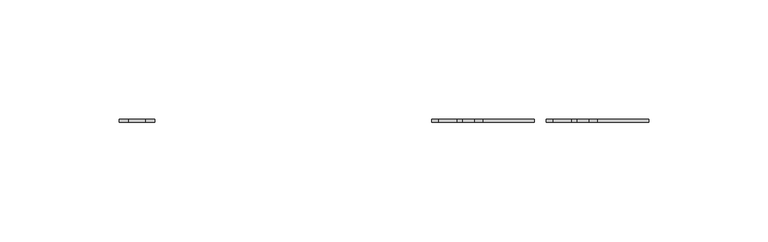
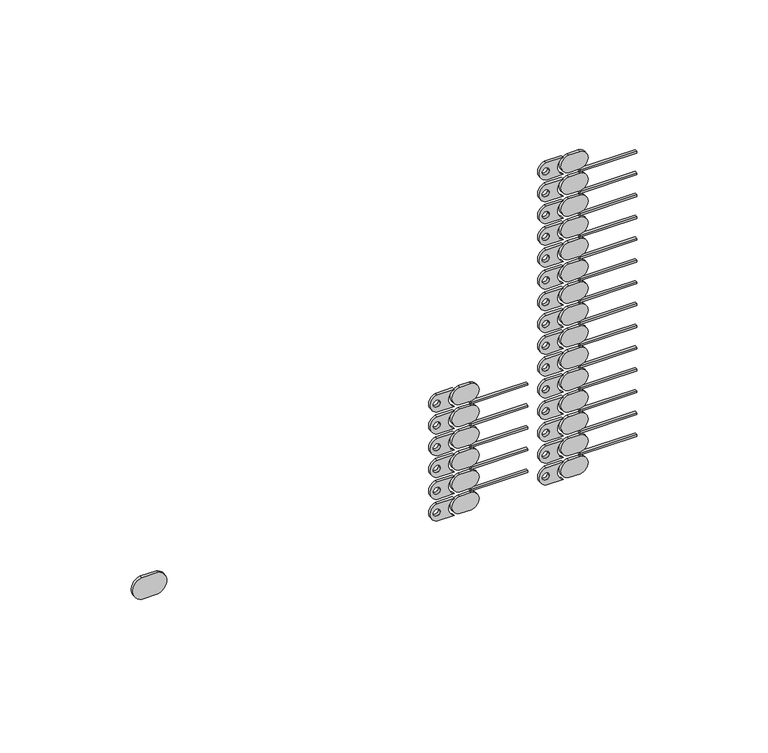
"""IFC4 building model written with IfcOpenShell, lengths in millimetres: alarm geometry, БИС-Р_тип модель : БИС-Р."""

from ifc_helpers import new_model, si_unit, point, frame, frame_2d, origin, place, context, project, spatial, polyline, circle_curve, trimmed, segment, composite_curve, outline, extrude, source, transform, mapped, element, save


def alarm_d060e439(model_context):
    return source(origin(), model_context, "Body", "SweptSolid", [
        extrude(outline(composite_curve([segment(polyline([(-139.9503936, -95.0017404), (-139.9503936, -102.0017404)]), True, "CONTINUOUS"), segment(trimmed(circle_curve(frame_2d((-144.9503936, -100.8767404)), 5.125), [point((-139.9503936, -102.0017404))], [point((-149.9503936, -102.0017404))], False, "CARTESIAN"), True, "CONTINUOUS"), segment(polyline([(-149.9503936, -102.0017404), (-149.9503936, -95.0017404)]), True, "CONTINUOUS"), segment(trimmed(circle_curve(frame_2d((-144.9503936, -96.1267404)), 5.125), [point((-149.9503936, -95.0017404))], [point((-139.9503936, -95.0017404))], False, "CARTESIAN"), True, "CONTINUOUS")], self_intersect=False)), frame((0.0, -14.3, 0.0), z_axis=(0.0, 1.0, 0.0), x_axis=(0.0, 0.0, 1.0)), (0.0, 0.0, 1.0), 1.3),
        extrude(outline(composite_curve([segment(polyline([(-159.1025772, 75.9909508), (-159.1025772, 83.4898609)]), True, "CONTINUOUS"), segment(trimmed(circle_curve(frame_2d((-155.1003936, 85.4417357)), 4.4527845), [point((-159.1025772, 83.4898609))], [point((-151.0982099, 83.4898609))], True, "CARTESIAN"), True, "CONTINUOUS"), segment(polyline([(-151.0982099, 83.4898609), (-151.0982099, 75.9909508)]), True, "CONTINUOUS"), segment(trimmed(circle_curve(frame_2d((-155.1003936, 77.1591799)), 4.1692006), [point((-151.0982099, 75.9909508))], [point((-159.1025772, 75.9909508))], False, "CARTESIAN"), True, "CONTINUOUS")], self_intersect=False), holes=[composite_curve([segment(trimmed(circle_curve(frame_2d((-155.1003936, 75.8836283)), 1.5), [point((-155.1003936, 74.3836283))], [point((-155.1003936, 77.3836283))], True, "CARTESIAN"), True, "CONTINUOUS"), segment(trimmed(circle_curve(frame_2d((-155.1003936, 75.8836283)), 1.5), [point((-155.1003936, 77.3836283))], [point((-155.1003936, 74.3836283))], True, "CARTESIAN"), True, "CONTINUOUS")], self_intersect=False)]), frame((0.0, -14.3, 0.0), z_axis=(0.0, 1.0, 0.0), x_axis=(0.0, 0.0, 1.0)), (0.0, 0.0, 1.0), 1.3),
        extrude(outline(composite_curve([segment(trimmed(circle_curve(frame_2d((-155.1003936, 90.4501658)), 4.0380565), [point((-159.1025772, 90.9872192))], [point((-151.0982099, 90.9872192))], False, "CARTESIAN"), True, "CONTINUOUS"), segment(polyline([(-151.0982099, 90.9872192), (-151.0982099, 85.9863247)]), True, "CONTINUOUS"), segment(trimmed(circle_curve(frame_2d((-155.1003936, 86.5376284)), 4.0399765), [point((-151.0982099, 85.9863247))], [point((-159.1025772, 85.9863247))], False, "CARTESIAN"), True, "CONTINUOUS"), segment(polyline([(-159.1025772, 85.9863247), (-159.1025772, 90.9872192)]), True, "CONTINUOUS")], self_intersect=False)), frame((0.0, -14.3, 0.0), z_axis=(0.0, 1.0, 0.0), x_axis=(0.0, 0.0, 1.0)), (0.0, 0.0, 1.0), 1.3),
        extrude(outline(composite_curve([segment(polyline([(-148.9525772, 75.9909508), (-148.9525772, 83.4898609)]), True, "CONTINUOUS"), segment(trimmed(circle_curve(frame_2d((-144.9503936, 85.4417357)), 4.4527845), [point((-148.9525772, 83.4898609))], [point((-140.9482099, 83.4898609))], True, "CARTESIAN"), True, "CONTINUOUS"), segment(polyline([(-140.9482099, 83.4898609), (-140.9482099, 75.9909508)]), True, "CONTINUOUS"), segment(trimmed(circle_curve(frame_2d((-144.9503936, 77.1591799)), 4.1692006), [point((-140.9482099, 75.9909508))], [point((-148.9525772, 75.9909508))], False, "CARTESIAN"), True, "CONTINUOUS")], self_intersect=False), holes=[composite_curve([segment(trimmed(circle_curve(frame_2d((-144.9503936, 75.8836283)), 1.5), [point((-144.9503936, 74.3836283))], [point((-144.9503936, 77.3836283))], True, "CARTESIAN"), True, "CONTINUOUS"), segment(trimmed(circle_curve(frame_2d((-144.9503936, 75.8836283)), 1.5), [point((-144.9503936, 77.3836283))], [point((-144.9503936, 74.3836283))], True, "CARTESIAN"), True, "CONTINUOUS")], self_intersect=False)]), frame((0.0, -14.3, 0.0), z_axis=(0.0, 1.0, 0.0), x_axis=(0.0, 0.0, 1.0)), (0.0, 0.0, 1.0), 1.3),
        extrude(outline(polyline([(115.9872192, -14.3), (90.9872192, -14.3), (90.9872192, -13.0), (115.9872192, -13.0), (115.9872192, -14.3)])), frame((0.0, 0.0, -150.4160186), z_axis=(0.0, 0.0, 1.0), x_axis=(1.0, 0.0, 0.0)), (0.0, 0.0, 1.0), 0.8214556),
        extrude(outline(composite_curve([segment(trimmed(circle_curve(frame_2d((-144.9503936, 90.4501658)), 4.0380565), [point((-148.9525772, 90.9872192))], [point((-140.9482099, 90.9872192))], False, "CARTESIAN"), True, "CONTINUOUS"), segment(polyline([(-140.9482099, 90.9872192), (-140.9482099, 85.9863247)]), True, "CONTINUOUS"), segment(trimmed(circle_curve(frame_2d((-144.9503936, 86.5376284)), 4.0399765), [point((-140.9482099, 85.9863247))], [point((-148.9525772, 85.9863247))], False, "CARTESIAN"), True, "CONTINUOUS"), segment(polyline([(-148.9525772, 85.9863247), (-148.9525772, 90.9872192)]), True, "CONTINUOUS")], self_intersect=False)), frame((0.0, -14.3, 0.0), z_axis=(0.0, 1.0, 0.0), x_axis=(0.0, 0.0, 1.0)), (0.0, 0.0, 1.0), 1.3),
        extrude(outline(composite_curve([segment(polyline([(-138.8025772, 75.9909508), (-138.8025772, 83.4898609)]), True, "CONTINUOUS"), segment(trimmed(circle_curve(frame_2d((-134.8003936, 85.4417357)), 4.4527845), [point((-138.8025772, 83.4898609))], [point((-130.7982099, 83.4898609))], True, "CARTESIAN"), True, "CONTINUOUS"), segment(polyline([(-130.7982099, 83.4898609), (-130.7982099, 75.9909508)]), True, "CONTINUOUS"), segment(trimmed(circle_curve(frame_2d((-134.8003936, 77.1591799)), 4.1692006), [point((-130.7982099, 75.9909508))], [point((-138.8025772, 75.9909508))], False, "CARTESIAN"), True, "CONTINUOUS")], self_intersect=False), holes=[composite_curve([segment(trimmed(circle_curve(frame_2d((-134.8003936, 75.8836283)), 1.5), [point((-134.8003936, 74.3836283))], [point((-134.8003936, 77.3836283))], True, "CARTESIAN"), True, "CONTINUOUS"), segment(trimmed(circle_curve(frame_2d((-134.8003936, 75.8836283)), 1.5), [point((-134.8003936, 77.3836283))], [point((-134.8003936, 74.3836283))], True, "CARTESIAN"), True, "CONTINUOUS")], self_intersect=False)]), frame((0.0, -14.3, 0.0), z_axis=(0.0, 1.0, 0.0), x_axis=(0.0, 0.0, 1.0)), (0.0, 0.0, 1.0), 1.3),
        extrude(outline(polyline([(115.9872192, -14.3), (90.9872192, -14.3), (90.9872192, -13.0), (115.9872192, -13.0), (115.9872192, -14.3)])), frame((0.0, 0.0, -140.2660186), z_axis=(0.0, 0.0, 1.0), x_axis=(1.0, 0.0, 0.0)), (0.0, 0.0, 1.0), 0.8214556),
        extrude(outline(composite_curve([segment(trimmed(circle_curve(frame_2d((-134.8003936, 90.4501658)), 4.0380565), [point((-138.8025772, 90.9872192))], [point((-130.7982099, 90.9872192))], False, "CARTESIAN"), True, "CONTINUOUS"), segment(polyline([(-130.7982099, 90.9872192), (-130.7982099, 85.9863247)]), True, "CONTINUOUS"), segment(trimmed(circle_curve(frame_2d((-134.8003936, 86.5376284)), 4.0399765), [point((-130.7982099, 85.9863247))], [point((-138.8025772, 85.9863247))], False, "CARTESIAN"), True, "CONTINUOUS"), segment(polyline([(-138.8025772, 85.9863247), (-138.8025772, 90.9872192)]), True, "CONTINUOUS")], self_intersect=False)), frame((0.0, -14.3, 0.0), z_axis=(0.0, 1.0, 0.0), x_axis=(0.0, 0.0, 1.0)), (0.0, 0.0, 1.0), 1.3),
        extrude(outline(composite_curve([segment(polyline([(-128.6525772, 75.9909508), (-128.6525772, 83.4898609)]), True, "CONTINUOUS"), segment(trimmed(circle_curve(frame_2d((-124.6503936, 85.4417357)), 4.4527845), [point((-128.6525772, 83.4898609))], [point((-120.6482099, 83.4898609))], True, "CARTESIAN"), True, "CONTINUOUS"), segment(polyline([(-120.6482099, 83.4898609), (-120.6482099, 75.9909508)]), True, "CONTINUOUS"), segment(trimmed(circle_curve(frame_2d((-124.6503936, 77.1591799)), 4.1692006), [point((-120.6482099, 75.9909508))], [point((-128.6525772, 75.9909508))], False, "CARTESIAN"), True, "CONTINUOUS")], self_intersect=False), holes=[composite_curve([segment(trimmed(circle_curve(frame_2d((-124.6503936, 75.8836283)), 1.5), [point((-124.6503936, 74.3836283))], [point((-124.6503936, 77.3836283))], True, "CARTESIAN"), True, "CONTINUOUS"), segment(trimmed(circle_curve(frame_2d((-124.6503936, 75.8836283)), 1.5), [point((-124.6503936, 77.3836283))], [point((-124.6503936, 74.3836283))], True, "CARTESIAN"), True, "CONTINUOUS")], self_intersect=False)]), frame((0.0, -14.3, 0.0), z_axis=(0.0, 1.0, 0.0), x_axis=(0.0, 0.0, 1.0)), (0.0, 0.0, 1.0), 1.3),
        extrude(outline(polyline([(115.9872192, -14.3), (90.9872192, -14.3), (90.9872192, -13.0), (115.9872192, -13.0), (115.9872192, -14.3)])), frame((0.0, 0.0, -130.1160186), z_axis=(0.0, 0.0, 1.0), x_axis=(1.0, 0.0, 0.0)), (0.0, 0.0, 1.0), 0.8214556),
        extrude(outline(composite_curve([segment(trimmed(circle_curve(frame_2d((-124.6503936, 90.4501658)), 4.0380565), [point((-128.6525772, 90.9872192))], [point((-120.6482099, 90.9872192))], False, "CARTESIAN"), True, "CONTINUOUS"), segment(polyline([(-120.6482099, 90.9872192), (-120.6482099, 85.9863247)]), True, "CONTINUOUS"), segment(trimmed(circle_curve(frame_2d((-124.6503936, 86.5376284)), 4.0399765), [point((-120.6482099, 85.9863247))], [point((-128.6525772, 85.9863247))], False, "CARTESIAN"), True, "CONTINUOUS"), segment(polyline([(-128.6525772, 85.9863247), (-128.6525772, 90.9872192)]), True, "CONTINUOUS")], self_intersect=False)), frame((0.0, -14.3, 0.0), z_axis=(0.0, 1.0, 0.0), x_axis=(0.0, 0.0, 1.0)), (0.0, 0.0, 1.0), 1.3),
        extrude(outline(composite_curve([segment(polyline([(-118.5025772, 75.9909508), (-118.5025772, 83.4898609)]), True, "CONTINUOUS"), segment(trimmed(circle_curve(frame_2d((-114.5003936, 85.4417357)), 4.4527845), [point((-118.5025772, 83.4898609))], [point((-110.4982099, 83.4898609))], True, "CARTESIAN"), True, "CONTINUOUS"), segment(polyline([(-110.4982099, 83.4898609), (-110.4982099, 75.9909508)]), True, "CONTINUOUS"), segment(trimmed(circle_curve(frame_2d((-114.5003936, 77.1591799)), 4.1692006), [point((-110.4982099, 75.9909508))], [point((-118.5025772, 75.9909508))], False, "CARTESIAN"), True, "CONTINUOUS")], self_intersect=False), holes=[composite_curve([segment(trimmed(circle_curve(frame_2d((-114.5003936, 75.8836283)), 1.5), [point((-114.5003936, 74.3836283))], [point((-114.5003936, 77.3836283))], True, "CARTESIAN"), True, "CONTINUOUS"), segment(trimmed(circle_curve(frame_2d((-114.5003936, 75.8836283)), 1.5), [point((-114.5003936, 77.3836283))], [point((-114.5003936, 74.3836283))], True, "CARTESIAN"), True, "CONTINUOUS")], self_intersect=False)]), frame((0.0, -14.3, 0.0), z_axis=(0.0, 1.0, 0.0), x_axis=(0.0, 0.0, 1.0)), (0.0, 0.0, 1.0), 1.3),
        extrude(outline(polyline([(115.9872192, -14.3), (90.9872192, -14.3), (90.9872192, -13.0), (115.9872192, -13.0), (115.9872192, -14.3)])), frame((0.0, 0.0, -119.9660186), z_axis=(0.0, 0.0, 1.0), x_axis=(1.0, 0.0, 0.0)), (0.0, 0.0, 1.0), 0.8214556),
        extrude(outline(composite_curve([segment(trimmed(circle_curve(frame_2d((-114.5003936, 90.4501658)), 4.0380565), [point((-118.5025772, 90.9872192))], [point((-110.4982099, 90.9872192))], False, "CARTESIAN"), True, "CONTINUOUS"), segment(polyline([(-110.4982099, 90.9872192), (-110.4982099, 85.9863247)]), True, "CONTINUOUS"), segment(trimmed(circle_curve(frame_2d((-114.5003936, 86.5376284)), 4.0399765), [point((-110.4982099, 85.9863247))], [point((-118.5025772, 85.9863247))], False, "CARTESIAN"), True, "CONTINUOUS"), segment(polyline([(-118.5025772, 85.9863247), (-118.5025772, 90.9872192)]), True, "CONTINUOUS")], self_intersect=False)), frame((0.0, -14.3, 0.0), z_axis=(0.0, 1.0, 0.0), x_axis=(0.0, 0.0, 1.0)), (0.0, 0.0, 1.0), 1.3),
        extrude(outline(composite_curve([segment(polyline([(-108.3525772, 75.9909508), (-108.3525772, 83.4898609)]), True, "CONTINUOUS"), segment(trimmed(circle_curve(frame_2d((-104.3503936, 85.4417357)), 4.4527845), [point((-108.3525772, 83.4898609))], [point((-100.3482099, 83.4898609))], True, "CARTESIAN"), True, "CONTINUOUS"), segment(polyline([(-100.3482099, 83.4898609), (-100.3482099, 75.9909508)]), True, "CONTINUOUS"), segment(trimmed(circle_curve(frame_2d((-104.3503936, 77.1591799)), 4.1692006), [point((-100.3482099, 75.9909508))], [point((-108.3525772, 75.9909508))], False, "CARTESIAN"), True, "CONTINUOUS")], self_intersect=False), holes=[composite_curve([segment(trimmed(circle_curve(frame_2d((-104.3503936, 75.8836283)), 1.5), [point((-104.3503936, 74.3836283))], [point((-104.3503936, 77.3836283))], True, "CARTESIAN"), True, "CONTINUOUS"), segment(trimmed(circle_curve(frame_2d((-104.3503936, 75.8836283)), 1.5), [point((-104.3503936, 77.3836283))], [point((-104.3503936, 74.3836283))], True, "CARTESIAN"), True, "CONTINUOUS")], self_intersect=False)]), frame((0.0, -14.3, 0.0), z_axis=(0.0, 1.0, 0.0), x_axis=(0.0, 0.0, 1.0)), (0.0, 0.0, 1.0), 1.3),
        extrude(outline(polyline([(115.9872192, -14.3), (90.9872192, -14.3), (90.9872192, -13.0), (115.9872192, -13.0), (115.9872192, -14.3)])), frame((0.0, 0.0, -109.8160186), z_axis=(0.0, 0.0, 1.0), x_axis=(1.0, 0.0, 0.0)), (0.0, 0.0, 1.0), 0.8214556),
        extrude(outline(composite_curve([segment(trimmed(circle_curve(frame_2d((-104.3503936, 90.4501658)), 4.0380565), [point((-108.3525772, 90.9872192))], [point((-100.3482099, 90.9872192))], False, "CARTESIAN"), True, "CONTINUOUS"), segment(polyline([(-100.3482099, 90.9872192), (-100.3482099, 85.9863247)]), True, "CONTINUOUS"), segment(trimmed(circle_curve(frame_2d((-104.3503936, 86.5376284)), 4.0399765), [point((-100.3482099, 85.9863247))], [point((-108.3525772, 85.9863247))], False, "CARTESIAN"), True, "CONTINUOUS"), segment(polyline([(-108.3525772, 85.9863247), (-108.3525772, 90.9872192)]), True, "CONTINUOUS")], self_intersect=False)), frame((0.0, -14.3, 0.0), z_axis=(0.0, 1.0, 0.0), x_axis=(0.0, 0.0, 1.0)), (0.0, 0.0, 1.0), 1.3),
        extrude(outline(composite_curve([segment(polyline([(-98.2025772, 75.9909508), (-98.2025772, 83.4898609)]), True, "CONTINUOUS"), segment(trimmed(circle_curve(frame_2d((-94.2003936, 85.4417357)), 4.4527845), [point((-98.2025772, 83.4898609))], [point((-90.1982099, 83.4898609))], True, "CARTESIAN"), True, "CONTINUOUS"), segment(polyline([(-90.1982099, 83.4898609), (-90.1982099, 75.9909508)]), True, "CONTINUOUS"), segment(trimmed(circle_curve(frame_2d((-94.2003936, 77.1591799)), 4.1692006), [point((-90.1982099, 75.9909508))], [point((-98.2025772, 75.9909508))], False, "CARTESIAN"), True, "CONTINUOUS")], self_intersect=False), holes=[composite_curve([segment(trimmed(circle_curve(frame_2d((-94.2003936, 75.8836283)), 1.5), [point((-94.2003936, 74.3836283))], [point((-94.2003936, 77.3836283))], True, "CARTESIAN"), True, "CONTINUOUS"), segment(trimmed(circle_curve(frame_2d((-94.2003936, 75.8836283)), 1.5), [point((-94.2003936, 77.3836283))], [point((-94.2003936, 74.3836283))], True, "CARTESIAN"), True, "CONTINUOUS")], self_intersect=False)]), frame((0.0, -14.3, 0.0), z_axis=(0.0, 1.0, 0.0), x_axis=(0.0, 0.0, 1.0)), (0.0, 0.0, 1.0), 1.3),
        extrude(outline(polyline([(115.9872192, -14.3), (90.9872192, -14.3), (90.9872192, -13.0), (115.9872192, -13.0), (115.9872192, -14.3)])), frame((0.0, 0.0, -99.6660186), z_axis=(0.0, 0.0, 1.0), x_axis=(1.0, 0.0, 0.0)), (0.0, 0.0, 1.0), 0.8214556),
        extrude(outline(composite_curve([segment(trimmed(circle_curve(frame_2d((-94.2003936, 90.4501658)), 4.0380565), [point((-98.2025772, 90.9872192))], [point((-90.1982099, 90.9872192))], False, "CARTESIAN"), True, "CONTINUOUS"), segment(polyline([(-90.1982099, 90.9872192), (-90.1982099, 85.9863247)]), True, "CONTINUOUS"), segment(trimmed(circle_curve(frame_2d((-94.2003936, 86.5376284)), 4.0399765), [point((-90.1982099, 85.9863247))], [point((-98.2025772, 85.9863247))], False, "CARTESIAN"), True, "CONTINUOUS"), segment(polyline([(-98.2025772, 85.9863247), (-98.2025772, 90.9872192)]), True, "CONTINUOUS")], self_intersect=False)), frame((0.0, -14.3, 0.0), z_axis=(0.0, 1.0, 0.0), x_axis=(0.0, 0.0, 1.0)), (0.0, 0.0, 1.0), 1.3),
        extrude(outline(composite_curve([segment(polyline([(-88.0525772, 75.9909508), (-88.0525772, 83.4898609)]), True, "CONTINUOUS"), segment(trimmed(circle_curve(frame_2d((-84.0503936, 85.4417357)), 4.4527845), [point((-88.0525772, 83.4898609))], [point((-80.0482099, 83.4898609))], True, "CARTESIAN"), True, "CONTINUOUS"), segment(polyline([(-80.0482099, 83.4898609), (-80.0482099, 75.9909508)]), True, "CONTINUOUS"), segment(trimmed(circle_curve(frame_2d((-84.0503936, 77.1591799)), 4.1692006), [point((-80.0482099, 75.9909508))], [point((-88.0525772, 75.9909508))], False, "CARTESIAN"), True, "CONTINUOUS")], self_intersect=False), holes=[composite_curve([segment(trimmed(circle_curve(frame_2d((-84.0503936, 75.8836283)), 1.5), [point((-84.0503936, 74.3836283))], [point((-84.0503936, 77.3836283))], True, "CARTESIAN"), True, "CONTINUOUS"), segment(trimmed(circle_curve(frame_2d((-84.0503936, 75.8836283)), 1.5), [point((-84.0503936, 77.3836283))], [point((-84.0503936, 74.3836283))], True, "CARTESIAN"), True, "CONTINUOUS")], self_intersect=False)]), frame((0.0, -14.3, 0.0), z_axis=(0.0, 1.0, 0.0), x_axis=(0.0, 0.0, 1.0)), (0.0, 0.0, 1.0), 1.3),
        extrude(outline(polyline([(115.9872192, -14.3), (90.9872192, -14.3), (90.9872192, -13.0), (115.9872192, -13.0), (115.9872192, -14.3)])), frame((0.0, 0.0, -89.5160186), z_axis=(0.0, 0.0, 1.0), x_axis=(1.0, 0.0, 0.0)), (0.0, 0.0, 1.0), 0.8214556),
        extrude(outline(composite_curve([segment(trimmed(circle_curve(frame_2d((-84.0503936, 90.4501658)), 4.0380565), [point((-88.0525772, 90.9872192))], [point((-80.0482099, 90.9872192))], False, "CARTESIAN"), True, "CONTINUOUS"), segment(polyline([(-80.0482099, 90.9872192), (-80.0482099, 85.9863247)]), True, "CONTINUOUS"), segment(trimmed(circle_curve(frame_2d((-84.0503936, 86.5376284)), 4.0399765), [point((-80.0482099, 85.9863247))], [point((-88.0525772, 85.9863247))], False, "CARTESIAN"), True, "CONTINUOUS"), segment(polyline([(-88.0525772, 85.9863247), (-88.0525772, 90.9872192)]), True, "CONTINUOUS")], self_intersect=False)), frame((0.0, -14.3, 0.0), z_axis=(0.0, 1.0, 0.0), x_axis=(0.0, 0.0, 1.0)), (0.0, 0.0, 1.0), 1.3),
        extrude(outline(composite_curve([segment(polyline([(-77.9025772, 75.9909508), (-77.9025772, 83.4898609)]), True, "CONTINUOUS"), segment(trimmed(circle_curve(frame_2d((-73.9003936, 85.4417357)), 4.4527845), [point((-77.9025772, 83.4898609))], [point((-69.8982099, 83.4898609))], True, "CARTESIAN"), True, "CONTINUOUS"), segment(polyline([(-69.8982099, 83.4898609), (-69.8982099, 75.9909508)]), True, "CONTINUOUS"), segment(trimmed(circle_curve(frame_2d((-73.9003936, 77.1591799)), 4.1692006), [point((-69.8982099, 75.9909508))], [point((-77.9025772, 75.9909508))], False, "CARTESIAN"), True, "CONTINUOUS")], self_intersect=False), holes=[composite_curve([segment(trimmed(circle_curve(frame_2d((-73.9003936, 75.8836283)), 1.5), [point((-73.9003936, 74.3836283))], [point((-73.9003936, 77.3836283))], True, "CARTESIAN"), True, "CONTINUOUS"), segment(trimmed(circle_curve(frame_2d((-73.9003936, 75.8836283)), 1.5), [point((-73.9003936, 77.3836283))], [point((-73.9003936, 74.3836283))], True, "CARTESIAN"), True, "CONTINUOUS")], self_intersect=False)]), frame((0.0, -14.3, 0.0), z_axis=(0.0, 1.0, 0.0), x_axis=(0.0, 0.0, 1.0)), (0.0, 0.0, 1.0), 1.3),
        extrude(outline(polyline([(115.9872192, -14.3), (90.9872192, -14.3), (90.9872192, -13.0), (115.9872192, -13.0), (115.9872192, -14.3)])), frame((0.0, 0.0, -79.3660186), z_axis=(0.0, 0.0, 1.0), x_axis=(1.0, 0.0, 0.0)), (0.0, 0.0, 1.0), 0.8214556),
        extrude(outline(composite_curve([segment(trimmed(circle_curve(frame_2d((-73.9003936, 90.4501658)), 4.0380565), [point((-77.9025772, 90.9872192))], [point((-69.8982099, 90.9872192))], False, "CARTESIAN"), True, "CONTINUOUS"), segment(polyline([(-69.8982099, 90.9872192), (-69.8982099, 85.9863247)]), True, "CONTINUOUS"), segment(trimmed(circle_curve(frame_2d((-73.9003936, 86.5376284)), 4.0399765), [point((-69.8982099, 85.9863247))], [point((-77.9025772, 85.9863247))], False, "CARTESIAN"), True, "CONTINUOUS"), segment(polyline([(-77.9025772, 85.9863247), (-77.9025772, 90.9872192)]), True, "CONTINUOUS")], self_intersect=False)), frame((0.0, -14.3, 0.0), z_axis=(0.0, 1.0, 0.0), x_axis=(0.0, 0.0, 1.0)), (0.0, 0.0, 1.0), 1.3),
        extrude(outline(composite_curve([segment(polyline([(-67.7525772, 75.9909508), (-67.7525772, 83.4898609)]), True, "CONTINUOUS"), segment(trimmed(circle_curve(frame_2d((-63.7503936, 85.4417357)), 4.4527845), [point((-67.7525772, 83.4898609))], [point((-59.7482099, 83.4898609))], True, "CARTESIAN"), True, "CONTINUOUS"), segment(polyline([(-59.7482099, 83.4898609), (-59.7482099, 75.9909508)]), True, "CONTINUOUS"), segment(trimmed(circle_curve(frame_2d((-63.7503936, 77.1591799)), 4.1692006), [point((-59.7482099, 75.9909508))], [point((-67.7525772, 75.9909508))], False, "CARTESIAN"), True, "CONTINUOUS")], self_intersect=False), holes=[composite_curve([segment(trimmed(circle_curve(frame_2d((-63.7503936, 75.8836283)), 1.5), [point((-63.7503936, 74.3836283))], [point((-63.7503936, 77.3836283))], True, "CARTESIAN"), True, "CONTINUOUS"), segment(trimmed(circle_curve(frame_2d((-63.7503936, 75.8836283)), 1.5), [point((-63.7503936, 77.3836283))], [point((-63.7503936, 74.3836283))], True, "CARTESIAN"), True, "CONTINUOUS")], self_intersect=False)]), frame((0.0, -14.3, 0.0), z_axis=(0.0, 1.0, 0.0), x_axis=(0.0, 0.0, 1.0)), (0.0, 0.0, 1.0), 1.3),
        extrude(outline(polyline([(115.9872192, -14.3), (90.9872192, -14.3), (90.9872192, -13.0), (115.9872192, -13.0), (115.9872192, -14.3)])), frame((0.0, 0.0, -69.2160186), z_axis=(0.0, 0.0, 1.0), x_axis=(1.0, 0.0, 0.0)), (0.0, 0.0, 1.0), 0.8214556),
        extrude(outline(composite_curve([segment(trimmed(circle_curve(frame_2d((-63.7503936, 90.4501658)), 4.0380565), [point((-67.7525772, 90.9872192))], [point((-59.7482099, 90.9872192))], False, "CARTESIAN"), True, "CONTINUOUS"), segment(polyline([(-59.7482099, 90.9872192), (-59.7482099, 85.9863247)]), True, "CONTINUOUS"), segment(trimmed(circle_curve(frame_2d((-63.7503936, 86.5376284)), 4.0399765), [point((-59.7482099, 85.9863247))], [point((-67.7525772, 85.9863247))], False, "CARTESIAN"), True, "CONTINUOUS"), segment(polyline([(-67.7525772, 85.9863247), (-67.7525772, 90.9872192)]), True, "CONTINUOUS")], self_intersect=False)), frame((0.0, -14.3, 0.0), z_axis=(0.0, 1.0, 0.0), x_axis=(0.0, 0.0, 1.0)), (0.0, 0.0, 1.0), 1.3),
        extrude(outline(composite_curve([segment(polyline([(-57.6025772, 75.9909508), (-57.6025772, 83.4898609)]), True, "CONTINUOUS"), segment(trimmed(circle_curve(frame_2d((-53.6003936, 85.4417357)), 4.4527845), [point((-57.6025772, 83.4898609))], [point((-49.5982099, 83.4898609))], True, "CARTESIAN"), True, "CONTINUOUS"), segment(polyline([(-49.5982099, 83.4898609), (-49.5982099, 75.9909508)]), True, "CONTINUOUS"), segment(trimmed(circle_curve(frame_2d((-53.6003936, 77.1591799)), 4.1692006), [point((-49.5982099, 75.9909508))], [point((-57.6025772, 75.9909508))], False, "CARTESIAN"), True, "CONTINUOUS")], self_intersect=False), holes=[composite_curve([segment(trimmed(circle_curve(frame_2d((-53.6003936, 75.8836283)), 1.5), [point((-53.6003936, 74.3836283))], [point((-53.6003936, 77.3836283))], True, "CARTESIAN"), True, "CONTINUOUS"), segment(trimmed(circle_curve(frame_2d((-53.6003936, 75.8836283)), 1.5), [point((-53.6003936, 77.3836283))], [point((-53.6003936, 74.3836283))], True, "CARTESIAN"), True, "CONTINUOUS")], self_intersect=False)]), frame((0.0, -14.3, 0.0), z_axis=(0.0, 1.0, 0.0), x_axis=(0.0, 0.0, 1.0)), (0.0, 0.0, 1.0), 1.3),
        extrude(outline(polyline([(115.9872192, -14.3), (90.9872192, -14.3), (90.9872192, -13.0), (115.9872192, -13.0), (115.9872192, -14.3)])), frame((0.0, 0.0, -59.0660186), z_axis=(0.0, 0.0, 1.0), x_axis=(1.0, 0.0, 0.0)), (0.0, 0.0, 1.0), 0.8214556),
        extrude(outline(composite_curve([segment(trimmed(circle_curve(frame_2d((-53.6003936, 90.4501658)), 4.0380565), [point((-57.6025772, 90.9872192))], [point((-49.5982099, 90.9872192))], False, "CARTESIAN"), True, "CONTINUOUS"), segment(polyline([(-49.5982099, 90.9872192), (-49.5982099, 85.9863247)]), True, "CONTINUOUS"), segment(trimmed(circle_curve(frame_2d((-53.6003936, 86.5376284)), 4.0399765), [point((-49.5982099, 85.9863247))], [point((-57.6025772, 85.9863247))], False, "CARTESIAN"), True, "CONTINUOUS"), segment(polyline([(-57.6025772, 85.9863247), (-57.6025772, 90.9872192)]), True, "CONTINUOUS")], self_intersect=False)), frame((0.0, -14.3, 0.0), z_axis=(0.0, 1.0, 0.0), x_axis=(0.0, 0.0, 1.0)), (0.0, 0.0, 1.0), 1.3),
        extrude(outline(composite_curve([segment(polyline([(-47.4525772, 75.9909508), (-47.4525772, 83.4898609)]), True, "CONTINUOUS"), segment(trimmed(circle_curve(frame_2d((-43.4503936, 85.4417357)), 4.4527845), [point((-47.4525772, 83.4898609))], [point((-39.4482099, 83.4898609))], True, "CARTESIAN"), True, "CONTINUOUS"), segment(polyline([(-39.4482099, 83.4898609), (-39.4482099, 75.9909508)]), True, "CONTINUOUS"), segment(trimmed(circle_curve(frame_2d((-43.4503936, 77.1591799)), 4.1692006), [point((-39.4482099, 75.9909508))], [point((-47.4525772, 75.9909508))], False, "CARTESIAN"), True, "CONTINUOUS")], self_intersect=False), holes=[composite_curve([segment(trimmed(circle_curve(frame_2d((-43.4503936, 75.8836283)), 1.5), [point((-43.4503936, 74.3836283))], [point((-43.4503936, 77.3836283))], True, "CARTESIAN"), True, "CONTINUOUS"), segment(trimmed(circle_curve(frame_2d((-43.4503936, 75.8836283)), 1.5), [point((-43.4503936, 77.3836283))], [point((-43.4503936, 74.3836283))], True, "CARTESIAN"), True, "CONTINUOUS")], self_intersect=False)]), frame((0.0, -14.3, 0.0), z_axis=(0.0, 1.0, 0.0), x_axis=(0.0, 0.0, 1.0)), (0.0, 0.0, 1.0), 1.3),
        extrude(outline(polyline([(115.9872192, -14.3), (90.9872192, -14.3), (90.9872192, -13.0), (115.9872192, -13.0), (115.9872192, -14.3)])), frame((0.0, 0.0, -48.9160186), z_axis=(0.0, 0.0, 1.0), x_axis=(1.0, 0.0, 0.0)), (0.0, 0.0, 1.0), 0.8214556),
        extrude(outline(composite_curve([segment(trimmed(circle_curve(frame_2d((-43.4503936, 90.4501658)), 4.0380565), [point((-47.4525772, 90.9872192))], [point((-39.4482099, 90.9872192))], False, "CARTESIAN"), True, "CONTINUOUS"), segment(polyline([(-39.4482099, 90.9872192), (-39.4482099, 85.9863247)]), True, "CONTINUOUS"), segment(trimmed(circle_curve(frame_2d((-43.4503936, 86.5376284)), 4.0399765), [point((-39.4482099, 85.9863247))], [point((-47.4525772, 85.9863247))], False, "CARTESIAN"), True, "CONTINUOUS"), segment(polyline([(-47.4525772, 85.9863247), (-47.4525772, 90.9872192)]), True, "CONTINUOUS")], self_intersect=False)), frame((0.0, -14.3, 0.0), z_axis=(0.0, 1.0, 0.0), x_axis=(0.0, 0.0, 1.0)), (0.0, 0.0, 1.0), 1.3),
        extrude(outline(composite_curve([segment(polyline([(-37.3025772, 75.9909508), (-37.3025772, 83.4898609)]), True, "CONTINUOUS"), segment(trimmed(circle_curve(frame_2d((-33.3003936, 85.4417357)), 4.4527845), [point((-37.3025772, 83.4898609))], [point((-29.2982099, 83.4898609))], True, "CARTESIAN"), True, "CONTINUOUS"), segment(polyline([(-29.2982099, 83.4898609), (-29.2982099, 75.9909508)]), True, "CONTINUOUS"), segment(trimmed(circle_curve(frame_2d((-33.3003936, 77.1591799)), 4.1692006), [point((-29.2982099, 75.9909508))], [point((-37.3025772, 75.9909508))], False, "CARTESIAN"), True, "CONTINUOUS")], self_intersect=False), holes=[composite_curve([segment(trimmed(circle_curve(frame_2d((-33.3003936, 75.8836283)), 1.5), [point((-33.3003936, 74.3836283))], [point((-33.3003936, 77.3836283))], True, "CARTESIAN"), True, "CONTINUOUS"), segment(trimmed(circle_curve(frame_2d((-33.3003936, 75.8836283)), 1.5), [point((-33.3003936, 77.3836283))], [point((-33.3003936, 74.3836283))], True, "CARTESIAN"), True, "CONTINUOUS")], self_intersect=False)]), frame((0.0, -14.3, 0.0), z_axis=(0.0, 1.0, 0.0), x_axis=(0.0, 0.0, 1.0)), (0.0, 0.0, 1.0), 1.3),
        extrude(outline(polyline([(115.9872192, -14.3), (90.9872192, -14.3), (90.9872192, -13.0), (115.9872192, -13.0), (115.9872192, -14.3)])), frame((0.0, 0.0, -38.7660186), z_axis=(0.0, 0.0, 1.0), x_axis=(1.0, 0.0, 0.0)), (0.0, 0.0, 1.0), 0.8214556),
        extrude(outline(composite_curve([segment(trimmed(circle_curve(frame_2d((-33.3003936, 90.4501658)), 4.0380565), [point((-37.3025772, 90.9872192))], [point((-29.2982099, 90.9872192))], False, "CARTESIAN"), True, "CONTINUOUS"), segment(polyline([(-29.2982099, 90.9872192), (-29.2982099, 85.9863247)]), True, "CONTINUOUS"), segment(trimmed(circle_curve(frame_2d((-33.3003936, 86.5376284)), 4.0399765), [point((-29.2982099, 85.9863247))], [point((-37.3025772, 85.9863247))], False, "CARTESIAN"), True, "CONTINUOUS"), segment(polyline([(-37.3025772, 85.9863247), (-37.3025772, 90.9872192)]), True, "CONTINUOUS")], self_intersect=False)), frame((0.0, -14.3, 0.0), z_axis=(0.0, 1.0, 0.0), x_axis=(0.0, 0.0, 1.0)), (0.0, 0.0, 1.0), 1.3),
        extrude(outline(composite_curve([segment(polyline([(-27.1525772, 75.9909508), (-27.1525772, 83.4898609)]), True, "CONTINUOUS"), segment(trimmed(circle_curve(frame_2d((-23.1503936, 85.4417357)), 4.4527845), [point((-27.1525772, 83.4898609))], [point((-19.1482099, 83.4898609))], True, "CARTESIAN"), True, "CONTINUOUS"), segment(polyline([(-19.1482099, 83.4898609), (-19.1482099, 75.9909508)]), True, "CONTINUOUS"), segment(trimmed(circle_curve(frame_2d((-23.1503936, 77.1591799)), 4.1692006), [point((-19.1482099, 75.9909508))], [point((-27.1525772, 75.9909508))], False, "CARTESIAN"), True, "CONTINUOUS")], self_intersect=False), holes=[composite_curve([segment(trimmed(circle_curve(frame_2d((-23.1503936, 75.8836283)), 1.5), [point((-23.1503936, 74.3836283))], [point((-23.1503936, 77.3836283))], True, "CARTESIAN"), True, "CONTINUOUS"), segment(trimmed(circle_curve(frame_2d((-23.1503936, 75.8836283)), 1.5), [point((-23.1503936, 77.3836283))], [point((-23.1503936, 74.3836283))], True, "CARTESIAN"), True, "CONTINUOUS")], self_intersect=False)]), frame((0.0, -14.3, 0.0), z_axis=(0.0, 1.0, 0.0), x_axis=(0.0, 0.0, 1.0)), (0.0, 0.0, 1.0), 1.3),
        extrude(outline(polyline([(115.9872192, -14.3), (90.9872192, -14.3), (90.9872192, -13.0), (115.9872192, -13.0), (115.9872192, -14.3)])), frame((0.0, 0.0, -28.6160186), z_axis=(0.0, 0.0, 1.0), x_axis=(1.0, 0.0, 0.0)), (0.0, 0.0, 1.0), 0.8214556),
        extrude(outline(composite_curve([segment(trimmed(circle_curve(frame_2d((-23.1503936, 90.4501658)), 4.0380565), [point((-27.1525772, 90.9872192))], [point((-19.1482099, 90.9872192))], False, "CARTESIAN"), True, "CONTINUOUS"), segment(polyline([(-19.1482099, 90.9872192), (-19.1482099, 85.9863247)]), True, "CONTINUOUS"), segment(trimmed(circle_curve(frame_2d((-23.1503936, 86.5376284)), 4.0399765), [point((-19.1482099, 85.9863247))], [point((-27.1525772, 85.9863247))], False, "CARTESIAN"), True, "CONTINUOUS"), segment(polyline([(-27.1525772, 85.9863247), (-27.1525772, 90.9872192)]), True, "CONTINUOUS")], self_intersect=False)), frame((0.0, -14.3, 0.0), z_axis=(0.0, 1.0, 0.0), x_axis=(0.0, 0.0, 1.0)), (0.0, 0.0, 1.0), 1.3),
        extrude(outline(composite_curve([segment(polyline([(-17.0025772, 75.9909508), (-17.0025772, 83.4898609)]), True, "CONTINUOUS"), segment(trimmed(circle_curve(frame_2d((-13.0003936, 85.4417357)), 4.4527845), [point((-17.0025772, 83.4898609))], [point((-8.9982099, 83.4898609))], True, "CARTESIAN"), True, "CONTINUOUS"), segment(polyline([(-8.9982099, 83.4898609), (-8.9982099, 75.9909508)]), True, "CONTINUOUS"), segment(trimmed(circle_curve(frame_2d((-13.0003936, 77.1591799)), 4.1692006), [point((-8.9982099, 75.9909508))], [point((-17.0025772, 75.9909508))], False, "CARTESIAN"), True, "CONTINUOUS")], self_intersect=False), holes=[composite_curve([segment(trimmed(circle_curve(frame_2d((-13.0003936, 75.8836283)), 1.5), [point((-13.0003936, 74.3836283))], [point((-13.0003936, 77.3836283))], True, "CARTESIAN"), True, "CONTINUOUS"), segment(trimmed(circle_curve(frame_2d((-13.0003936, 75.8836283)), 1.5), [point((-13.0003936, 77.3836283))], [point((-13.0003936, 74.3836283))], True, "CARTESIAN"), True, "CONTINUOUS")], self_intersect=False)]), frame((0.0, -14.3, 0.0), z_axis=(0.0, 1.0, 0.0), x_axis=(0.0, 0.0, 1.0)), (0.0, 0.0, 1.0), 1.3),
        extrude(outline(polyline([(115.9872192, -14.3), (90.9872192, -14.3), (90.9872192, -13.0), (115.9872192, -13.0), (115.9872192, -14.3)])), frame((0.0, 0.0, -18.4660186), z_axis=(0.0, 0.0, 1.0), x_axis=(1.0, 0.0, 0.0)), (0.0, 0.0, 1.0), 0.8214556),
        extrude(outline(composite_curve([segment(trimmed(circle_curve(frame_2d((-13.0003936, 90.4501658)), 4.0380565), [point((-17.0025772, 90.9872192))], [point((-8.9982099, 90.9872192))], False, "CARTESIAN"), True, "CONTINUOUS"), segment(polyline([(-8.9982099, 90.9872192), (-8.9982099, 85.9863247)]), True, "CONTINUOUS"), segment(trimmed(circle_curve(frame_2d((-13.0003936, 86.5376284)), 4.0399765), [point((-8.9982099, 85.9863247))], [point((-17.0025772, 85.9863247))], False, "CARTESIAN"), True, "CONTINUOUS"), segment(polyline([(-17.0025772, 85.9863247), (-17.0025772, 90.9872192)]), True, "CONTINUOUS")], self_intersect=False)), frame((0.0, -14.3, 0.0), z_axis=(0.0, 1.0, 0.0), x_axis=(0.0, 0.0, 1.0)), (0.0, 0.0, 1.0), 1.3),
        extrude(outline(composite_curve([segment(polyline([(-159.1025772, 27.9937109), (-159.1025772, 35.492621)]), True, "CONTINUOUS"), segment(trimmed(circle_curve(frame_2d((-155.1003936, 37.4444958)), 4.4527845), [point((-159.1025772, 35.492621))], [point((-151.0982099, 35.492621))], True, "CARTESIAN"), True, "CONTINUOUS"), segment(polyline([(-151.0982099, 35.492621), (-151.0982099, 27.9937109)]), True, "CONTINUOUS"), segment(trimmed(circle_curve(frame_2d((-155.1003936, 29.16194)), 4.1692006), [point((-151.0982099, 27.9937109))], [point((-159.1025772, 27.9937109))], False, "CARTESIAN"), True, "CONTINUOUS")], self_intersect=False), holes=[composite_curve([segment(trimmed(circle_curve(frame_2d((-155.1003936, 27.8863884)), 1.5), [point((-155.1003936, 26.3863884))], [point((-155.1003936, 29.3863884))], True, "CARTESIAN"), True, "CONTINUOUS"), segment(trimmed(circle_curve(frame_2d((-155.1003936, 27.8863884)), 1.5), [point((-155.1003936, 29.3863884))], [point((-155.1003936, 26.3863884))], True, "CARTESIAN"), True, "CONTINUOUS")], self_intersect=False)]), frame((0.0, -14.3, 0.0), z_axis=(0.0, 1.0, 0.0), x_axis=(0.0, 0.0, 1.0)), (0.0, 0.0, 1.0), 1.3),
        extrude(outline(composite_curve([segment(trimmed(circle_curve(frame_2d((-155.1003936, 42.4529259)), 4.0380565), [point((-159.1025772, 42.9899793))], [point((-151.0982099, 42.9899793))], False, "CARTESIAN"), True, "CONTINUOUS"), segment(polyline([(-151.0982099, 42.9899793), (-151.0982099, 37.9890848)]), True, "CONTINUOUS"), segment(trimmed(circle_curve(frame_2d((-155.1003936, 38.5403885)), 4.0399765), [point((-151.0982099, 37.9890848))], [point((-159.1025772, 37.9890848))], False, "CARTESIAN"), True, "CONTINUOUS"), segment(polyline([(-159.1025772, 37.9890848), (-159.1025772, 42.9899793)]), True, "CONTINUOUS")], self_intersect=False)), frame((0.0, -14.3, 0.0), z_axis=(0.0, 1.0, 0.0), x_axis=(0.0, 0.0, 1.0)), (0.0, 0.0, 1.0), 1.3),
        extrude(outline(composite_curve([segment(polyline([(-148.9525772, 27.9937109), (-148.9525772, 35.492621)]), True, "CONTINUOUS"), segment(trimmed(circle_curve(frame_2d((-144.9503936, 37.4444958)), 4.4527845), [point((-148.9525772, 35.492621))], [point((-140.9482099, 35.492621))], True, "CARTESIAN"), True, "CONTINUOUS"), segment(polyline([(-140.9482099, 35.492621), (-140.9482099, 27.9937109)]), True, "CONTINUOUS"), segment(trimmed(circle_curve(frame_2d((-144.9503936, 29.16194)), 4.1692006), [point((-140.9482099, 27.9937109))], [point((-148.9525772, 27.9937109))], False, "CARTESIAN"), True, "CONTINUOUS")], self_intersect=False), holes=[composite_curve([segment(trimmed(circle_curve(frame_2d((-144.9503936, 27.8863884)), 1.5), [point((-144.9503936, 26.3863884))], [point((-144.9503936, 29.3863884))], True, "CARTESIAN"), True, "CONTINUOUS"), segment(trimmed(circle_curve(frame_2d((-144.9503936, 27.8863884)), 1.5), [point((-144.9503936, 29.3863884))], [point((-144.9503936, 26.3863884))], True, "CARTESIAN"), True, "CONTINUOUS")], self_intersect=False)]), frame((0.0, -14.3, 0.0), z_axis=(0.0, 1.0, 0.0), x_axis=(0.0, 0.0, 1.0)), (0.0, 0.0, 1.0), 1.3),
        extrude(outline(polyline([(67.9899793, -14.3), (42.9899793, -14.3), (42.9899793, -13.0), (67.9899793, -13.0), (67.9899793, -14.3)])), frame((0.0, 0.0, -150.4160186), z_axis=(0.0, 0.0, 1.0), x_axis=(1.0, 0.0, 0.0)), (0.0, 0.0, 1.0), 0.8214556),
        extrude(outline(composite_curve([segment(trimmed(circle_curve(frame_2d((-144.9503936, 42.4529259)), 4.0380565), [point((-148.9525772, 42.9899793))], [point((-140.9482099, 42.9899793))], False, "CARTESIAN"), True, "CONTINUOUS"), segment(polyline([(-140.9482099, 42.9899793), (-140.9482099, 37.9890848)]), True, "CONTINUOUS"), segment(trimmed(circle_curve(frame_2d((-144.9503936, 38.5403885)), 4.0399765), [point((-140.9482099, 37.9890848))], [point((-148.9525772, 37.9890848))], False, "CARTESIAN"), True, "CONTINUOUS"), segment(polyline([(-148.9525772, 37.9890848), (-148.9525772, 42.9899793)]), True, "CONTINUOUS")], self_intersect=False)), frame((0.0, -14.3, 0.0), z_axis=(0.0, 1.0, 0.0), x_axis=(0.0, 0.0, 1.0)), (0.0, 0.0, 1.0), 1.3),
        extrude(outline(composite_curve([segment(polyline([(-138.8025772, 27.9937109), (-138.8025772, 35.492621)]), True, "CONTINUOUS"), segment(trimmed(circle_curve(frame_2d((-134.8003936, 37.4444958)), 4.4527845), [point((-138.8025772, 35.492621))], [point((-130.7982099, 35.492621))], True, "CARTESIAN"), True, "CONTINUOUS"), segment(polyline([(-130.7982099, 35.492621), (-130.7982099, 27.9937109)]), True, "CONTINUOUS"), segment(trimmed(circle_curve(frame_2d((-134.8003936, 29.16194)), 4.1692006), [point((-130.7982099, 27.9937109))], [point((-138.8025772, 27.9937109))], False, "CARTESIAN"), True, "CONTINUOUS")], self_intersect=False), holes=[composite_curve([segment(trimmed(circle_curve(frame_2d((-134.8003936, 27.8863884)), 1.5), [point((-134.8003936, 26.3863884))], [point((-134.8003936, 29.3863884))], True, "CARTESIAN"), True, "CONTINUOUS"), segment(trimmed(circle_curve(frame_2d((-134.8003936, 27.8863884)), 1.5), [point((-134.8003936, 29.3863884))], [point((-134.8003936, 26.3863884))], True, "CARTESIAN"), True, "CONTINUOUS")], self_intersect=False)]), frame((0.0, -14.3, 0.0), z_axis=(0.0, 1.0, 0.0), x_axis=(0.0, 0.0, 1.0)), (0.0, 0.0, 1.0), 1.3),
        extrude(outline(polyline([(67.9899793, -14.3), (42.9899793, -14.3), (42.9899793, -13.0), (67.9899793, -13.0), (67.9899793, -14.3)])), frame((0.0, 0.0, -140.2660186), z_axis=(0.0, 0.0, 1.0), x_axis=(1.0, 0.0, 0.0)), (0.0, 0.0, 1.0), 0.8214556),
        extrude(outline(composite_curve([segment(trimmed(circle_curve(frame_2d((-134.8003936, 42.4529259)), 4.0380565), [point((-138.8025772, 42.9899793))], [point((-130.7982099, 42.9899793))], False, "CARTESIAN"), True, "CONTINUOUS"), segment(polyline([(-130.7982099, 42.9899793), (-130.7982099, 37.9890848)]), True, "CONTINUOUS"), segment(trimmed(circle_curve(frame_2d((-134.8003936, 38.5403885)), 4.0399765), [point((-130.7982099, 37.9890848))], [point((-138.8025772, 37.9890848))], False, "CARTESIAN"), True, "CONTINUOUS"), segment(polyline([(-138.8025772, 37.9890848), (-138.8025772, 42.9899793)]), True, "CONTINUOUS")], self_intersect=False)), frame((0.0, -14.3, 0.0), z_axis=(0.0, 1.0, 0.0), x_axis=(0.0, 0.0, 1.0)), (0.0, 0.0, 1.0), 1.3),
        extrude(outline(composite_curve([segment(polyline([(-128.6525772, 27.9937109), (-128.6525772, 35.492621)]), True, "CONTINUOUS"), segment(trimmed(circle_curve(frame_2d((-124.6503936, 37.4444958)), 4.4527845), [point((-128.6525772, 35.492621))], [point((-120.6482099, 35.492621))], True, "CARTESIAN"), True, "CONTINUOUS"), segment(polyline([(-120.6482099, 35.492621), (-120.6482099, 27.9937109)]), True, "CONTINUOUS"), segment(trimmed(circle_curve(frame_2d((-124.6503936, 29.16194)), 4.1692006), [point((-120.6482099, 27.9937109))], [point((-128.6525772, 27.9937109))], False, "CARTESIAN"), True, "CONTINUOUS")], self_intersect=False), holes=[composite_curve([segment(trimmed(circle_curve(frame_2d((-124.6503936, 27.8863884)), 1.5), [point((-124.6503936, 26.3863884))], [point((-124.6503936, 29.3863884))], True, "CARTESIAN"), True, "CONTINUOUS"), segment(trimmed(circle_curve(frame_2d((-124.6503936, 27.8863884)), 1.5), [point((-124.6503936, 29.3863884))], [point((-124.6503936, 26.3863884))], True, "CARTESIAN"), True, "CONTINUOUS")], self_intersect=False)]), frame((0.0, -14.3, 0.0), z_axis=(0.0, 1.0, 0.0), x_axis=(0.0, 0.0, 1.0)), (0.0, 0.0, 1.0), 1.3),
        extrude(outline(polyline([(67.9899793, -14.3), (42.9899793, -14.3), (42.9899793, -13.0), (67.9899793, -13.0), (67.9899793, -14.3)])), frame((0.0, 0.0, -130.1160186), z_axis=(0.0, 0.0, 1.0), x_axis=(1.0, 0.0, 0.0)), (0.0, 0.0, 1.0), 0.8214556),
        extrude(outline(composite_curve([segment(trimmed(circle_curve(frame_2d((-124.6503936, 42.4529259)), 4.0380565), [point((-128.6525772, 42.9899793))], [point((-120.6482099, 42.9899793))], False, "CARTESIAN"), True, "CONTINUOUS"), segment(polyline([(-120.6482099, 42.9899793), (-120.6482099, 37.9890848)]), True, "CONTINUOUS"), segment(trimmed(circle_curve(frame_2d((-124.6503936, 38.5403885)), 4.0399765), [point((-120.6482099, 37.9890848))], [point((-128.6525772, 37.9890848))], False, "CARTESIAN"), True, "CONTINUOUS"), segment(polyline([(-128.6525772, 37.9890848), (-128.6525772, 42.9899793)]), True, "CONTINUOUS")], self_intersect=False)), frame((0.0, -14.3, 0.0), z_axis=(0.0, 1.0, 0.0), x_axis=(0.0, 0.0, 1.0)), (0.0, 0.0, 1.0), 1.3),
        extrude(outline(composite_curve([segment(polyline([(-118.5025772, 27.9937109), (-118.5025772, 35.492621)]), True, "CONTINUOUS"), segment(trimmed(circle_curve(frame_2d((-114.5003936, 37.4444958)), 4.4527845), [point((-118.5025772, 35.492621))], [point((-110.4982099, 35.492621))], True, "CARTESIAN"), True, "CONTINUOUS"), segment(polyline([(-110.4982099, 35.492621), (-110.4982099, 27.9937109)]), True, "CONTINUOUS"), segment(trimmed(circle_curve(frame_2d((-114.5003936, 29.16194)), 4.1692006), [point((-110.4982099, 27.9937109))], [point((-118.5025772, 27.9937109))], False, "CARTESIAN"), True, "CONTINUOUS")], self_intersect=False), holes=[composite_curve([segment(trimmed(circle_curve(frame_2d((-114.5003936, 27.8863884)), 1.5), [point((-114.5003936, 26.3863884))], [point((-114.5003936, 29.3863884))], True, "CARTESIAN"), True, "CONTINUOUS"), segment(trimmed(circle_curve(frame_2d((-114.5003936, 27.8863884)), 1.5), [point((-114.5003936, 29.3863884))], [point((-114.5003936, 26.3863884))], True, "CARTESIAN"), True, "CONTINUOUS")], self_intersect=False)]), frame((0.0, -14.3, 0.0), z_axis=(0.0, 1.0, 0.0), x_axis=(0.0, 0.0, 1.0)), (0.0, 0.0, 1.0), 1.3),
        extrude(outline(polyline([(67.9899793, -14.3), (42.9899793, -14.3), (42.9899793, -13.0), (67.9899793, -13.0), (67.9899793, -14.3)])), frame((0.0, 0.0, -119.9660186), z_axis=(0.0, 0.0, 1.0), x_axis=(1.0, 0.0, 0.0)), (0.0, 0.0, 1.0), 0.8214556),
        extrude(outline(composite_curve([segment(trimmed(circle_curve(frame_2d((-114.5003936, 42.4529259)), 4.0380565), [point((-118.5025772, 42.9899793))], [point((-110.4982099, 42.9899793))], False, "CARTESIAN"), True, "CONTINUOUS"), segment(polyline([(-110.4982099, 42.9899793), (-110.4982099, 37.9890848)]), True, "CONTINUOUS"), segment(trimmed(circle_curve(frame_2d((-114.5003936, 38.5403885)), 4.0399765), [point((-110.4982099, 37.9890848))], [point((-118.5025772, 37.9890848))], False, "CARTESIAN"), True, "CONTINUOUS"), segment(polyline([(-118.5025772, 37.9890848), (-118.5025772, 42.9899793)]), True, "CONTINUOUS")], self_intersect=False)), frame((0.0, -14.3, 0.0), z_axis=(0.0, 1.0, 0.0), x_axis=(0.0, 0.0, 1.0)), (0.0, 0.0, 1.0), 1.3),
        extrude(outline(composite_curve([segment(polyline([(-108.3525772, 27.9937109), (-108.3525772, 35.492621)]), True, "CONTINUOUS"), segment(trimmed(circle_curve(frame_2d((-104.3503936, 37.4444958)), 4.4527845), [point((-108.3525772, 35.492621))], [point((-100.3482099, 35.492621))], True, "CARTESIAN"), True, "CONTINUOUS"), segment(polyline([(-100.3482099, 35.492621), (-100.3482099, 27.9937109)]), True, "CONTINUOUS"), segment(trimmed(circle_curve(frame_2d((-104.3503936, 29.16194)), 4.1692006), [point((-100.3482099, 27.9937109))], [point((-108.3525772, 27.9937109))], False, "CARTESIAN"), True, "CONTINUOUS")], self_intersect=False), holes=[composite_curve([segment(trimmed(circle_curve(frame_2d((-104.3503936, 27.8863884)), 1.5), [point((-104.3503936, 26.3863884))], [point((-104.3503936, 29.3863884))], True, "CARTESIAN"), True, "CONTINUOUS"), segment(trimmed(circle_curve(frame_2d((-104.3503936, 27.8863884)), 1.5), [point((-104.3503936, 29.3863884))], [point((-104.3503936, 26.3863884))], True, "CARTESIAN"), True, "CONTINUOUS")], self_intersect=False)]), frame((0.0, -14.3, 0.0), z_axis=(0.0, 1.0, 0.0), x_axis=(0.0, 0.0, 1.0)), (0.0, 0.0, 1.0), 1.3),
        extrude(outline(polyline([(67.9899793, -14.3), (42.9899793, -14.3), (42.9899793, -13.0), (67.9899793, -13.0), (67.9899793, -14.3)])), frame((0.0, 0.0, -109.8160186), z_axis=(0.0, 0.0, 1.0), x_axis=(1.0, 0.0, 0.0)), (0.0, 0.0, 1.0), 0.8214556),
        extrude(outline(composite_curve([segment(trimmed(circle_curve(frame_2d((-104.3503936, 42.4529259)), 4.0380565), [point((-108.3525772, 42.9899793))], [point((-100.3482099, 42.9899793))], False, "CARTESIAN"), True, "CONTINUOUS"), segment(polyline([(-100.3482099, 42.9899793), (-100.3482099, 37.9890848)]), True, "CONTINUOUS"), segment(trimmed(circle_curve(frame_2d((-104.3503936, 38.5403885)), 4.0399765), [point((-100.3482099, 37.9890848))], [point((-108.3525772, 37.9890848))], False, "CARTESIAN"), True, "CONTINUOUS"), segment(polyline([(-108.3525772, 37.9890848), (-108.3525772, 42.9899793)]), True, "CONTINUOUS")], self_intersect=False)), frame((0.0, -14.3, 0.0), z_axis=(0.0, 1.0, 0.0), x_axis=(0.0, 0.0, 1.0)), (0.0, 0.0, 1.0), 1.3),
    ])


if __name__ == "__main__":
    model = new_model("IFC4")
    model_context = context("Model", 3, world=origin())
    ifc_project = project(units=[si_unit("LENGTHUNIT", "METRE", prefix="MILLI")], contexts=[model_context])
    site = spatial("IfcSite", under=ifc_project)
    building = spatial("IfcBuilding", under=site)
    placement = place(None, origin())
    alarm_shape = alarm_d060e439(model_context)
    element("IfcAlarm", 1, ObjectType="БИС-Р_тип модель : БИС-Р", at=placement, inside=building, context=model_context, shape_type="MappedRepresentation", body=[
        mapped(alarm_shape, transform((0.0, 0.0, 0.0), x_axis=(1.0, 0.0, 0.0), y_axis=(0.0, 1.0, 0.0), z_axis=(0.0, 0.0, 1.0))),
    ])
    save(model, "model.ifc")
